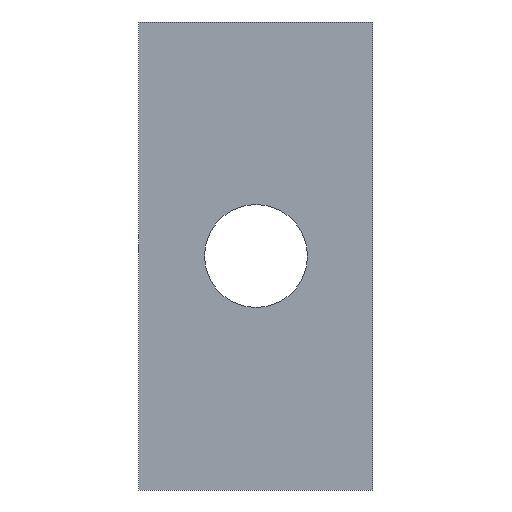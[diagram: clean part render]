
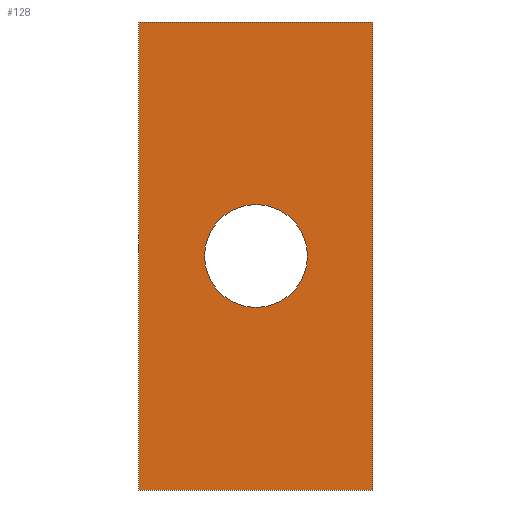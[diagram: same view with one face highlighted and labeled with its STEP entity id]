
A CAD part, left-side view. The second image highlights one B-rep face of the part: STEP entity #128.
In plain terms, the highlighted planar face has unit normal (-1, 0, 0).
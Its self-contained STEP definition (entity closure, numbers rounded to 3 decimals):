
#15=FACE_BOUND('',#36,.T.);
#21=PLANE('',#157);
#28=FACE_OUTER_BOUND('',#35,.T.);
#35=EDGE_LOOP('',(#112,#113,#114,#115));
#36=EDGE_LOOP('',(#116));
#42=LINE('',#206,#55);
#46=LINE('',#213,#59);
#49=LINE('',#219,#62);
#51=LINE('',#222,#64);
#55=VECTOR('',#172,10.);
#59=VECTOR('',#178,10.);
#62=VECTOR('',#183,10.);
#64=VECTOR('',#187,10.);
#65=CIRCLE('',#151,11.);
#67=VERTEX_POINT('',#194);
#71=VERTEX_POINT('',#203);
#72=VERTEX_POINT('',#205);
#74=VERTEX_POINT('',#211);
#76=VERTEX_POINT('',#217);
#77=EDGE_CURVE('',#67,#67,#65,.T.);
#82=EDGE_CURVE('',#71,#72,#42,.T.);
#86=EDGE_CURVE('',#74,#71,#46,.T.);
#89=EDGE_CURVE('',#76,#74,#49,.T.);
#91=EDGE_CURVE('',#72,#76,#51,.T.);
#112=ORIENTED_EDGE('',*,*,#91,.F.);
#113=ORIENTED_EDGE('',*,*,#82,.F.);
#114=ORIENTED_EDGE('',*,*,#86,.F.);
#115=ORIENTED_EDGE('',*,*,#89,.F.);
#116=ORIENTED_EDGE('',*,*,#77,.T.);
#128=ADVANCED_FACE('',(#28,#15),#21,.F.);
#151=AXIS2_PLACEMENT_3D('',#195,#163,#164);
#157=AXIS2_PLACEMENT_3D('',#223,#188,#189);
#163=DIRECTION('center_axis',(1.,0.,0.));
#164=DIRECTION('ref_axis',(0.,-1.,0.));
#172=DIRECTION('',(0.,0.,-1.));
#178=DIRECTION('',(0.,-1.,0.));
#183=DIRECTION('',(0.,0.,1.));
#187=DIRECTION('',(0.,1.,0.));
#188=DIRECTION('center_axis',(1.,0.,0.));
#189=DIRECTION('ref_axis',(0.,0.,-1.));
#194=CARTESIAN_POINT('',(0.,11.,0.));
#195=CARTESIAN_POINT('Origin',(0.,0.,0.));
#203=CARTESIAN_POINT('',(0.,-25.,50.));
#205=CARTESIAN_POINT('',(0.,-25.,-50.));
#206=CARTESIAN_POINT('',(0.,-25.,50.));
#211=CARTESIAN_POINT('',(0.,25.,50.));
#213=CARTESIAN_POINT('',(0.,25.,50.));
#217=CARTESIAN_POINT('',(0.,25.,-50.));
#219=CARTESIAN_POINT('',(0.,25.,-50.));
#222=CARTESIAN_POINT('',(0.,-25.,-50.));
#223=CARTESIAN_POINT('Origin',(0.,0.,0.));
